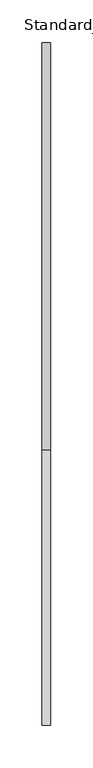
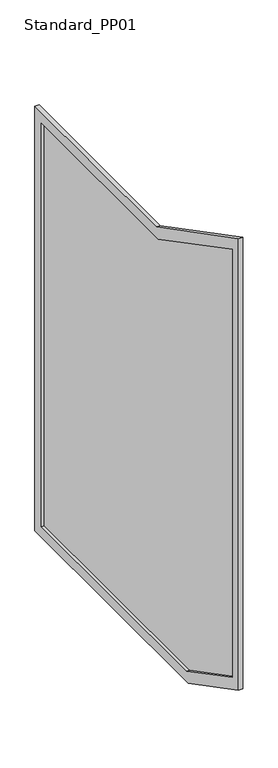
"""IFC4 building model written with IfcOpenShell, lengths in millimetres: railing geometry, Baluster-Landing-Panel-VIVA-STRUC-Upper : Standard_PP01."""

from ifc_helpers import new_model, si_unit, frame, origin, place, context, project, spatial, polyline, outline, extrude, source, transform, mapped, element, save


def standard_pp01_83faf62d(model_context):
    return source(origin(), model_context, "Body", "SweptSolid", [
        extrude(outline(polyline([(-206.7060559, -60.9774278), (-780.391954, -60.9774278), (-959.3372584, 32.1756015), (-959.3372584, 1063.4295139), (-666.564764, 911.0218), (-206.7060559, 911.0218), (-206.7060559, -60.9774278)])), frame((62.2681, 0.0, 0.0), z_axis=(1.0, 0.0, 0.0), x_axis=(0.0, 1.0, 0.0)), (0.0, 0.0, 1.0), 2.9972),
        extrude(outline(polyline([(-984.7372584, 16.7625032), (-984.7372584, 1105.2874184), (-660.3494236, 936.4218), (-181.3060559, 936.4218), (-181.3060559, -86.3774278), (-786.6072944, -86.3774278), (-984.7372584, 16.7625032)]), holes=[polyline([(-206.7060559, 911.0218), (-666.564764, 911.0218), (-959.3372584, 1063.4295139), (-959.3372584, 32.1756015), (-780.391954, -60.9774278), (-206.7060559, -60.9774278), (-206.7060559, 911.0218)])]), frame((55.7403, 0.0, 0.0), z_axis=(1.0, 0.0, 0.0), x_axis=(0.0, 1.0, 0.0)), (0.0, 0.0, 1.0), 9.525),
    ])


if __name__ == "__main__":
    model = new_model("IFC4")
    model_context = context("Model", 3, world=origin())
    ifc_project = project(units=[si_unit("LENGTHUNIT", "METRE", prefix="MILLI")], contexts=[model_context])
    site = spatial("IfcSite", under=ifc_project)
    building = spatial("IfcBuilding", under=site)
    placement = place(None, origin())
    standard_pp01_shape = standard_pp01_83faf62d(model_context)
    element("IfcRailing", 1, ObjectType="Baluster-Landing-Panel-VIVA-STRUC-Upper : Standard_PP01", at=placement, inside=building, context=model_context, shape_type="MappedRepresentation", body=[
        mapped(standard_pp01_shape, transform((0.0, 0.0, 0.0), x_axis=(1.0, 0.0, 0.0), y_axis=(0.0, 1.0, 0.0), z_axis=(0.0, 0.0, 1.0))),
    ])
    save(model, "model.ifc")
